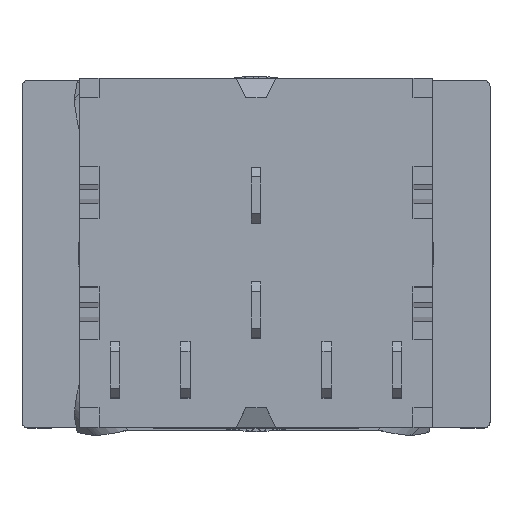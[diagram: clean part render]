
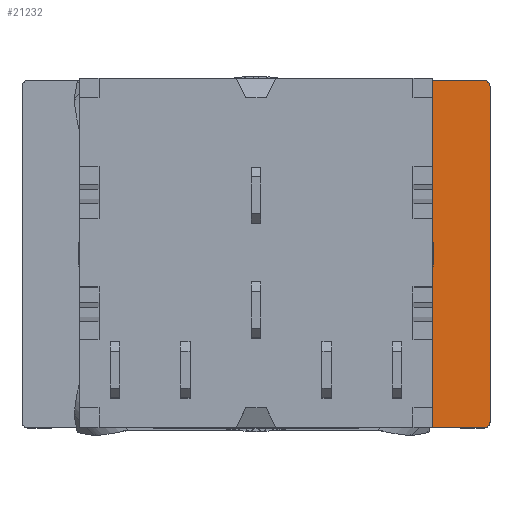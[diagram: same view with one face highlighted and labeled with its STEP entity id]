
A CAD part, top view. The second image highlights one B-rep face of the part: STEP entity #21232.
In plain terms, the highlighted planar face has unit normal (0, 0, 1).
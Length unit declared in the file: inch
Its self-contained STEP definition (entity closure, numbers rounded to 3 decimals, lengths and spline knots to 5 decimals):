
#1925=CARTESIAN_POINT('',(12.,8.95,-48.6));
#1926=DIRECTION('',(0.,0.,1.));
#1927=DIRECTION('',(1.,0.,0.));
#1928=AXIS2_PLACEMENT_3D('',#1925,#1926,#1927);
#1930=CARTESIAN_POINT('',(23.7,17.55,-48.6));
#1931=DIRECTION('',(0.,0.,-1.));
#1932=DIRECTION('',(0.,1.,0.));
#1933=AXIS2_PLACEMENT_3D('',#1930,#1931,#1932);
#1935=CARTESIAN_POINT('',(23.7,0.35,-48.6));
#1936=DIRECTION('',(0.,0.,-1.));
#1937=DIRECTION('',(1.,0.,0.));
#1938=AXIS2_PLACEMENT_3D('',#1935,#1936,#1937);
#1940=CARTESIAN_POINT('',(12.,8.95,-48.6));
#1941=DIRECTION('',(0.,0.,1.));
#1942=DIRECTION('',(0.149,-0.989,0.));
#1943=AXIS2_PLACEMENT_3D('',#1940,#1941,#1942);
#14227=DIRECTION('',(1.,0.,0.));
#14228=VECTOR('',#14227,10.36209);
#14229=CARTESIAN_POINT('',(13.33791,0.05,-48.6));
#14230=LINE('',#14229,#14228);
#14255=DIRECTION('',(0.,1.,0.));
#14256=VECTOR('',#14255,17.2);
#14257=CARTESIAN_POINT('',(24.,0.35,-48.6));
#14258=LINE('',#14257,#14256);
#14275=DIRECTION('',(-1.,0.,0.));
#14276=VECTOR('',#14275,10.36209);
#14277=CARTESIAN_POINT('',(23.7,17.85,-48.6));
#14278=LINE('',#14277,#14276);
#17165=CARTESIAN_POINT('',(23.7,17.85,-48.6));
#17166=CARTESIAN_POINT('',(24.,17.55,-48.6));
#17167=VERTEX_POINT('',#17165);
#17168=VERTEX_POINT('',#17166);
#17169=CARTESIAN_POINT('',(24.,0.35,-48.6));
#17170=VERTEX_POINT('',#17169);
#17171=CARTESIAN_POINT('',(23.7,0.05,-48.6));
#17172=VERTEX_POINT('',#17171);
#19081=CARTESIAN_POINT('',(21.,8.95,-48.6));
#19082=CARTESIAN_POINT('',(13.33791,17.85,-48.6));
#19083=VERTEX_POINT('',#19081);
#19084=VERTEX_POINT('',#19082);
#19091=CARTESIAN_POINT('',(13.33791,0.05,-48.6));
#19092=VERTEX_POINT('',#19091);
#21211=CARTESIAN_POINT('',(12.,8.95,-48.6));
#21212=DIRECTION('',(0.,0.,1.));
#21213=DIRECTION('',(0.,1.,0.));
#21214=AXIS2_PLACEMENT_3D('',#21211,#21212,#21213);
#21215=PLANE('',#21214);
#21217=ORIENTED_EDGE('',*,*,#21216,.T.);
#21219=ORIENTED_EDGE('',*,*,#21218,.F.);
#21221=ORIENTED_EDGE('',*,*,#21220,.T.);
#21223=ORIENTED_EDGE('',*,*,#21222,.F.);
#21225=ORIENTED_EDGE('',*,*,#21224,.T.);
#21227=ORIENTED_EDGE('',*,*,#21226,.F.);
#21229=ORIENTED_EDGE('',*,*,#21228,.T.);
#21230=EDGE_LOOP('',(#21217,#21219,#21221,#21223,#21225,#21227,#21229));
#21231=FACE_OUTER_BOUND('',#21230,.F.);
#21232=ADVANCED_FACE('',(#21231),#21215,.T.);
#1929=CIRCLE('',#1928,9.);
#1934=CIRCLE('',#1933,0.3);
#1939=CIRCLE('',#1938,0.3);
#1944=CIRCLE('',#1943,9.);
#21216=EDGE_CURVE('',#19083,#19084,#1929,.T.);
#21218=EDGE_CURVE('',#17167,#19084,#14278,.T.);
#21220=EDGE_CURVE('',#17167,#17168,#1934,.T.);
#21222=EDGE_CURVE('',#17170,#17168,#14258,.T.);
#21224=EDGE_CURVE('',#17170,#17172,#1939,.T.);
#21226=EDGE_CURVE('',#19092,#17172,#14230,.T.);
#21228=EDGE_CURVE('',#19092,#19083,#1944,.T.);
